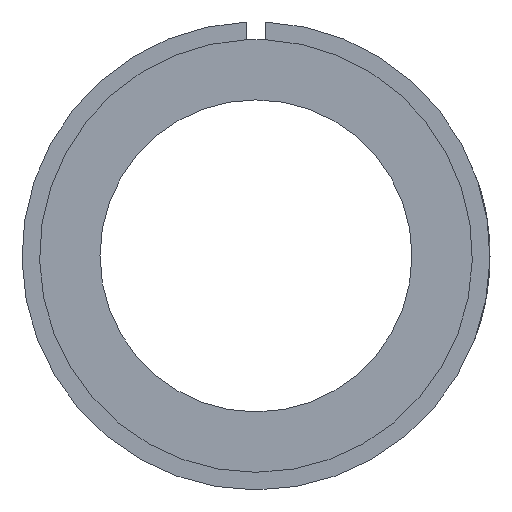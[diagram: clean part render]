
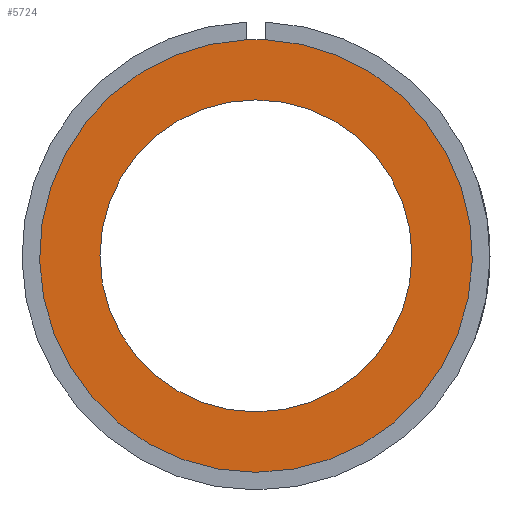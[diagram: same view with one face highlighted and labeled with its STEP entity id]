
A CAD part, left-side view. The second image highlights one B-rep face of the part: STEP entity #5724.
In plain terms, the highlighted planar face has unit normal (-1, 0, 0).
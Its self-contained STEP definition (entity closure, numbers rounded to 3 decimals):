
#130=PLANE('',#6168);
#379=CIRCLE('',#6143,25.);
#392=CIRCLE('',#6169,34.675);
#393=CIRCLE('',#6170,34.675);
#1766=ORIENTED_EDGE('',*,*,#3489,.F.);
#1767=ORIENTED_EDGE('',*,*,#3490,.F.);
#1768=ORIENTED_EDGE('',*,*,#3454,.T.);
#3454=EDGE_CURVE('',#4322,#4322,#379,.F.);
#3489=EDGE_CURVE('',#4345,#4346,#392,.T.);
#3490=EDGE_CURVE('',#4346,#4345,#393,.T.);
#4322=VERTEX_POINT('',#9046);
#4345=VERTEX_POINT('',#9117);
#4346=VERTEX_POINT('',#9118);
#4907=EDGE_LOOP('',(#1766,#1767));
#4908=EDGE_LOOP('',(#1768));
#5307=FACE_BOUND('',#4907,.T.);
#5308=FACE_BOUND('',#4908,.T.);
#5724=ADVANCED_FACE('',(#5307,#5308),#130,.T.);
#6143=AXIS2_PLACEMENT_3D('',#9045,#6723,#6724);
#6168=AXIS2_PLACEMENT_3D('',#9115,#6795,#6796);
#6169=AXIS2_PLACEMENT_3D('',#9116,#6797,#6798);
#6170=AXIS2_PLACEMENT_3D('',#9119,#6799,#6800);
#6723=DIRECTION('',(-1.,0.,0.));
#6724=DIRECTION('',(0.,0.,1.));
#6795=DIRECTION('',(-1.,0.,0.));
#6796=DIRECTION('',(0.,0.,-1.));
#6797=DIRECTION('',(1.,0.,0.));
#6798=DIRECTION('',(0.,0.,-1.));
#6799=DIRECTION('',(1.,0.,0.));
#6800=DIRECTION('',(0.,0.,-1.));
#9045=CARTESIAN_POINT('',(-47.,0.,0.));
#9046=CARTESIAN_POINT('',(-47.,0.,25.));
#9115=CARTESIAN_POINT('',(-47.,0.,0.));
#9116=CARTESIAN_POINT('',(-47.,0.,0.));
#9117=CARTESIAN_POINT('',(-47.,1.5,34.642));
#9118=CARTESIAN_POINT('',(-47.,-1.5,34.642));
#9119=CARTESIAN_POINT('',(-47.,0.,0.));
